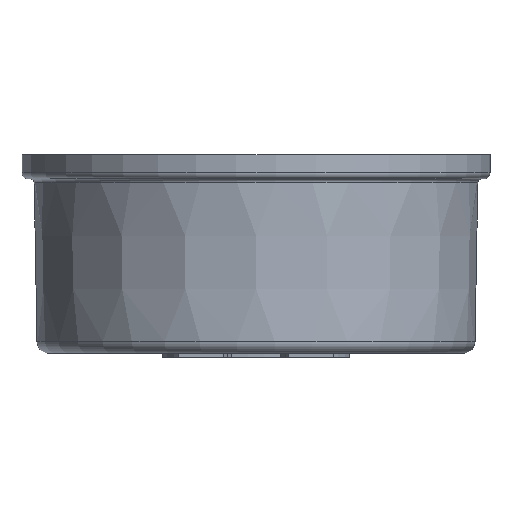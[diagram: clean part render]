
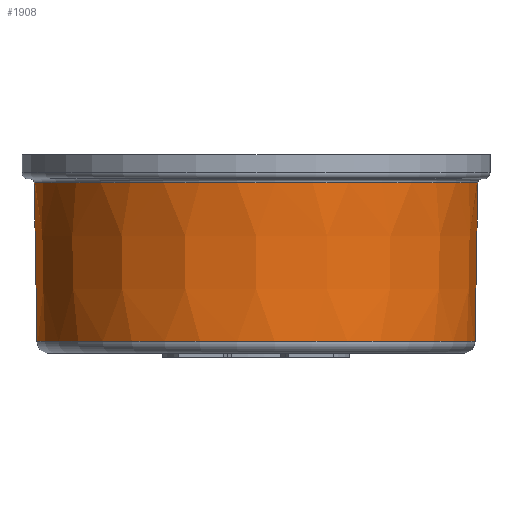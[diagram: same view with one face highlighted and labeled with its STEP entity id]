
A CAD part, front view. The second image highlights one B-rep face of the part: STEP entity #1908.
In plain terms, the highlighted conical face has half-angle 1 degrees and reference radius 54 mm.
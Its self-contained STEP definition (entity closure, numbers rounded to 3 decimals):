
#43 = VECTOR ( 'NONE', #4195, 1000. ) ;
#59 = EDGE_LOOP ( 'NONE', ( #2226, #3855, #6727, #2722 ) ) ;
#260 = DIRECTION ( 'NONE',  ( 0., 0., -1. ) ) ;
#421 = CARTESIAN_POINT ( 'NONE',  ( -53.948, -158.153, 2.948 ) ) ;
#904 = VERTEX_POINT ( 'NONE', #6908 ) ;
#1122 = VERTEX_POINT ( 'NONE', #6993 ) ;
#1253 = DIRECTION ( 'NONE',  ( 1., 0., 0. ) ) ;
#1264 = DIRECTION ( 'NONE',  ( 0., 0., 1. ) ) ;
#1581 = VECTOR ( 'NONE', #2761, 1000. ) ;
#1908 = ADVANCED_FACE ( 'NONE', ( #3892 ), #6120, .T. ) ;
#2113 = DIRECTION ( 'NONE',  ( 0., 0., 1. ) ) ;
#2226 = ORIENTED_EDGE ( 'NONE', *, *, #3113, .F. ) ;
#2487 = CARTESIAN_POINT ( 'NONE',  ( 54.628, -158.111, 42.017 ) ) ;
#2722 = ORIENTED_EDGE ( 'NONE', *, *, #3807, .T. ) ;
#2761 = DIRECTION ( 'NONE',  ( 0.017, -0.001, -1. ) ) ;
#2767 = AXIS2_PLACEMENT_3D ( 'NONE', #5449, #2113, #3748 ) ;
#3113 = EDGE_CURVE ( 'NONE', #4872, #1122, #4131, .T. ) ;
#3178 = LINE ( 'NONE', #3826, #1581 ) ;
#3248 = EDGE_CURVE ( 'NONE', #904, #4566, #3178, .T. ) ;
#3474 = CARTESIAN_POINT ( 'NONE',  ( 0., -161.5, 0. ) ) ;
#3748 = DIRECTION ( 'NONE',  ( -1., 0., 0. ) ) ;
#3807 = EDGE_CURVE ( 'NONE', #4566, #1122, #6787, .T. ) ;
#3826 = CARTESIAN_POINT ( 'NONE',  ( -53.896, -158.156, 0. ) ) ;
#3855 = ORIENTED_EDGE ( 'NONE', *, *, #6393, .T. ) ;
#3892 = FACE_OUTER_BOUND ( 'NONE', #59, .T. ) ;
#4131 = LINE ( 'NONE', #5806, #43 ) ;
#4161 = AXIS2_PLACEMENT_3D ( 'NONE', #3474, #1264, #1253 ) ;
#4195 = DIRECTION ( 'NONE',  ( -0.017, -0.001, -1. ) ) ;
#4566 = VERTEX_POINT ( 'NONE', #421 ) ;
#4872 = VERTEX_POINT ( 'NONE', #2487 ) ;
#5224 = CARTESIAN_POINT ( 'NONE',  ( 0., -161.5, 42.017 ) ) ;
#5347 = AXIS2_PLACEMENT_3D ( 'NONE', #5224, #260, #6918 ) ;
#5398 = CIRCLE ( 'NONE', #5347, 54.733 ) ;
#5449 = CARTESIAN_POINT ( 'NONE',  ( 0., -161.5, 2.948 ) ) ;
#5806 = CARTESIAN_POINT ( 'NONE',  ( 53.896, -158.156, 0. ) ) ;
#6120 = CONICAL_SURFACE ( 'NONE', #4161, 54., 0.017 ) ;
#6393 = EDGE_CURVE ( 'NONE', #4872, #904, #5398, .T. ) ;
#6727 = ORIENTED_EDGE ( 'NONE', *, *, #3248, .T. ) ;
#6787 = CIRCLE ( 'NONE', #2767, 54.051 ) ;
#6908 = CARTESIAN_POINT ( 'NONE',  ( -54.628, -158.111, 42.017 ) ) ;
#6918 = DIRECTION ( 'NONE',  ( 1., 0., 0. ) ) ;
#6993 = CARTESIAN_POINT ( 'NONE',  ( 53.948, -158.153, 2.948 ) ) ;
